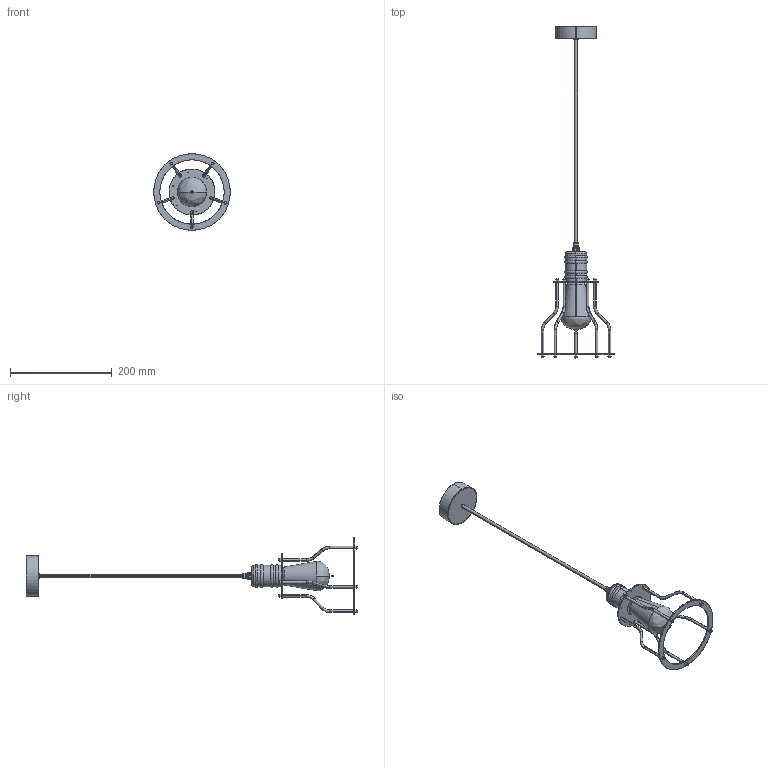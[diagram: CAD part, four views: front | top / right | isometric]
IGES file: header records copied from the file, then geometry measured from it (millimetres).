
Start section: SolidWorks IGES file using analytic representation for surfaces
Global section: file name: C:\Users\ppp\Desktop\Nowodvorski\Modele 3D_lampy\Workshop\3Ds\Workshop_3 oprawy_15cm.IGS; native system: SolidWorks 2012; preprocessor: SolidWorks 2012; author: ppp; date: 150727.092653; units: millimetre
Bounding box: 150 x 651.3 x 150 mm (x, y, z)
Surface area: 87410.2 mm2 (no closed solid volume)
Topology: 0 solids, 0 shells, 250 faces, 3110 edges, 3108 vertices
Faces by surface type: bspline 158, revolution 92
